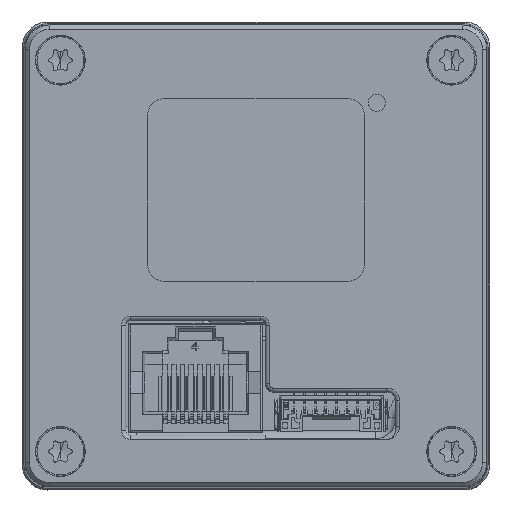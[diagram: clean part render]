
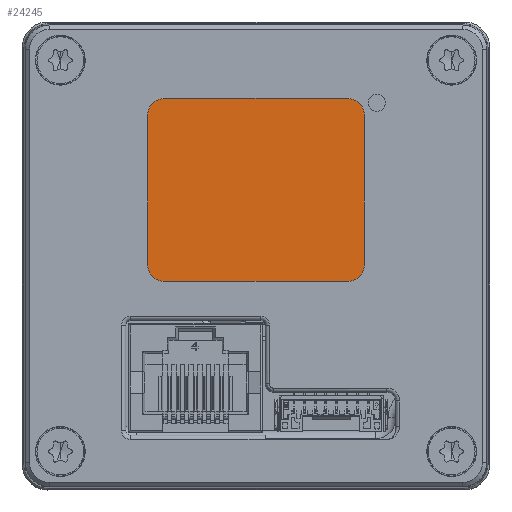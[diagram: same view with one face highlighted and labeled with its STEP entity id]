
A CAD part, top view. The second image highlights one B-rep face of the part: STEP entity #24245.
In plain terms, the highlighted planar face has unit normal (0, 0, 1).
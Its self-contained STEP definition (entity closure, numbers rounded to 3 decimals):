
#6327=CARTESIAN_POINT('',(-10.75,16.5,13.8));
#6328=DIRECTION('',(0.,0.,-1.));
#6329=DIRECTION('',(-1.,0.,0.));
#6330=AXIS2_PLACEMENT_3D('',#6327,#6328,#6329);
#6335=DIRECTION('',(1.,0.,0.));
#6336=VECTOR('',#6335,21.5);
#6337=CARTESIAN_POINT('',(-10.75,18.5,13.8));
#6338=LINE('',#6337,#6336);
#6342=CARTESIAN_POINT('',(10.75,16.5,13.8));
#6343=DIRECTION('',(0.,0.,-1.));
#6344=DIRECTION('',(0.,1.,0.));
#6345=AXIS2_PLACEMENT_3D('',#6342,#6343,#6344);
#6350=DIRECTION('',(0.,-1.,0.));
#6351=VECTOR('',#6350,17.5);
#6352=CARTESIAN_POINT('',(12.75,16.5,13.8));
#6353=LINE('',#6352,#6351);
#6357=CARTESIAN_POINT('',(10.75,-1.,13.8));
#6358=DIRECTION('',(0.,0.,-1.));
#6359=DIRECTION('',(1.,0.,0.));
#6360=AXIS2_PLACEMENT_3D('',#6357,#6358,#6359);
#6365=DIRECTION('',(-1.,0.,0.));
#6366=VECTOR('',#6365,21.5);
#6367=CARTESIAN_POINT('',(10.75,-3.,13.8));
#6368=LINE('',#6367,#6366);
#6372=CARTESIAN_POINT('',(-10.75,-1.,13.8));
#6373=DIRECTION('',(0.,0.,-1.));
#6374=DIRECTION('',(0.,-1.,0.));
#6375=AXIS2_PLACEMENT_3D('',#6372,#6373,#6374);
#6380=DIRECTION('',(0.,1.,0.));
#6381=VECTOR('',#6380,17.5);
#6382=CARTESIAN_POINT('',(-12.75,-1.,13.8));
#6383=LINE('',#6382,#6381);
#18426=CARTESIAN_POINT('',(12.75,16.5,13.8));
#18427=VERTEX_POINT('',#18426);
#18428=CARTESIAN_POINT('',(12.75,-1.,13.8));
#18429=VERTEX_POINT('',#18428);
#18430=CARTESIAN_POINT('',(10.75,18.5,13.8));
#18431=VERTEX_POINT('',#18430);
#18432=CARTESIAN_POINT('',(-12.75,16.5,13.8));
#18433=CARTESIAN_POINT('',(-10.75,18.5,13.8));
#18434=VERTEX_POINT('',#18432);
#18435=VERTEX_POINT('',#18433);
#18436=CARTESIAN_POINT('',(10.75,-3.,13.8));
#18437=VERTEX_POINT('',#18436);
#18438=CARTESIAN_POINT('',(-10.75,-3.,13.8));
#18439=VERTEX_POINT('',#18438);
#18440=CARTESIAN_POINT('',(-12.75,-1.,13.8));
#18441=VERTEX_POINT('',#18440);
#24224=CARTESIAN_POINT('',(0.,0.,13.8));
#24225=DIRECTION('',(0.,0.,1.));
#24226=DIRECTION('',(1.,0.,0.));
#24227=AXIS2_PLACEMENT_3D('',#24224,#24225,#24226);
#24228=PLANE('',#24227);
#24230=ORIENTED_EDGE('',*,*,#24229,.T.);
#24232=ORIENTED_EDGE('',*,*,#24231,.T.);
#24233=ORIENTED_EDGE('',*,*,#24208,.T.);
#24234=ORIENTED_EDGE('',*,*,#24191,.T.);
#24236=ORIENTED_EDGE('',*,*,#24235,.T.);
#24238=ORIENTED_EDGE('',*,*,#24237,.T.);
#24240=ORIENTED_EDGE('',*,*,#24239,.T.);
#24242=ORIENTED_EDGE('',*,*,#24241,.T.);
#24243=EDGE_LOOP('',(#24230,#24232,#24233,#24234,#24236,#24238,#24240,#24242));
#24244=FACE_OUTER_BOUND('',#24243,.F.);
#24245=ADVANCED_FACE('',(#24244),#24228,.T.);
#6331=CIRCLE('',#6330,2.);
#6346=CIRCLE('',#6345,2.);
#6361=CIRCLE('',#6360,2.);
#6376=CIRCLE('',#6375,2.);
#24191=EDGE_CURVE('',#18427,#18429,#6353,.T.);
#24208=EDGE_CURVE('',#18431,#18427,#6346,.T.);
#24229=EDGE_CURVE('',#18434,#18435,#6331,.T.);
#24231=EDGE_CURVE('',#18435,#18431,#6338,.T.);
#24235=EDGE_CURVE('',#18429,#18437,#6361,.T.);
#24237=EDGE_CURVE('',#18437,#18439,#6368,.T.);
#24239=EDGE_CURVE('',#18439,#18441,#6376,.T.);
#24241=EDGE_CURVE('',#18441,#18434,#6383,.T.);
